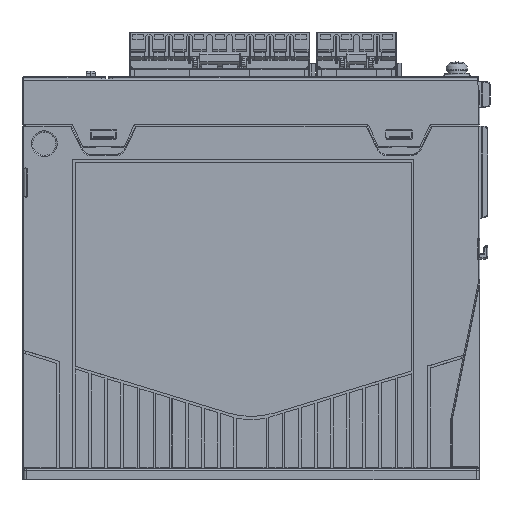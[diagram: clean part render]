
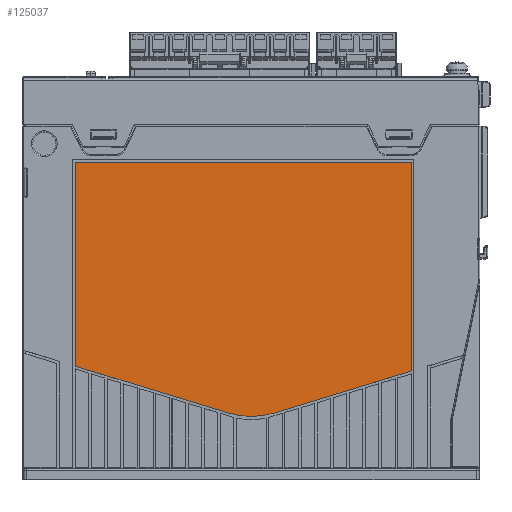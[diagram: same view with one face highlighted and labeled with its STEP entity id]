
A CAD part, left-side view. The second image highlights one B-rep face of the part: STEP entity #125037.
In plain terms, the highlighted planar face has unit normal (-1, 0, 0).
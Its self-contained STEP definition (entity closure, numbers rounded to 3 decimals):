
#32143=CARTESIAN_POINT('',(0.2,25.505,
-13.805));
#32178=CARTESIAN_POINT('',(0.2,25.505,
-91.337));
#32179=CARTESIAN_POINT('',(0.2,25.505,
-91.382));
#32180=CARTESIAN_POINT('',(0.2,25.523,
-91.461));
#32181=CARTESIAN_POINT('',(0.2,25.6,
-91.566));
#32182=CARTESIAN_POINT('',(0.2,25.671,
-91.607));
#32183=CARTESIAN_POINT('',(0.2,25.714,
-91.62));
#32185=DIRECTION('',(0.,0.956,-0.292));
#32186=VECTOR('',#32185,53.131);
#32187=CARTESIAN_POINT('',(0.2,25.714,
-91.62));
#32188=LINE('',#32187,#32186);
#32189=CARTESIAN_POINT('',(0.2,85.001,
-79.428));
#32190=DIRECTION('',(1.,0.,0.));
#32191=DIRECTION('',(0.,-0.292,-0.956));
#32192=AXIS2_PLACEMENT_3D('',#32189,#32190,#32191);
#32194=DIRECTION('',(0.,0.956,0.292));
#32195=VECTOR('',#32194,59.404);
#32196=CARTESIAN_POINT('',(0.2,93.477,
-107.156));
#32197=LINE('',#32196,#32195);
#32198=CARTESIAN_POINT('',(0.2,150.2,-89.508));
#32199=DIRECTION('',(1.,0.,0.));
#32200=DIRECTION('',(0.,0.292,-0.956));
#32201=AXIS2_PLACEMENT_3D('',#32198,#32199,#32200);
#32203=DIRECTION('',(0.,0.,1.));
#32204=VECTOR('',#32203,75.703);
#32205=CARTESIAN_POINT('',(0.2,150.495,
-89.508));
#32206=LINE('',#32205,#32204);
#32207=DIRECTION('',(0.,-1.,0.));
#32208=VECTOR('',#32207,124.99);
#32209=CARTESIAN_POINT('',(0.2,150.495,
-13.805));
#32210=LINE('',#32209,#32208);
#32211=DIRECTION('',(0.,0.,-1.));
#32212=VECTOR('',#32211,77.532);
#32213=CARTESIAN_POINT('',(0.2,25.505,
-13.805));
#32214=LINE('',#32213,#32212);
#53405=VERTEX_POINT('',#32143);
#53406=CARTESIAN_POINT('',(0.2,150.495,
-13.805));
#53407=VERTEX_POINT('',#53406);
#53408=CARTESIAN_POINT('',(0.2,25.505,
-91.337));
#53409=VERTEX_POINT('',#53408);
#53410=CARTESIAN_POINT('',(0.2,25.714,
-91.62));
#53411=VERTEX_POINT('',#53410);
#53412=CARTESIAN_POINT('',(0.2,76.523,
-107.156));
#53413=VERTEX_POINT('',#53412);
#53414=CARTESIAN_POINT('',(0.2,93.477,
-107.156));
#53415=VERTEX_POINT('',#53414);
#53416=CARTESIAN_POINT('',(0.2,150.286,
-89.79));
#53417=VERTEX_POINT('',#53416);
#53418=CARTESIAN_POINT('',(0.2,150.495,
-89.508));
#53419=VERTEX_POINT('',#53418);
#125022=CARTESIAN_POINT('',(0.2,0.,-127.5));
#125023=DIRECTION('',(-1.,0.,0.));
#125024=DIRECTION('',(0.,0.,1.));
#125025=AXIS2_PLACEMENT_3D('',#125022,#125023,#125024);
#125026=PLANE('',#125025);
#125027=ORIENTED_EDGE('',*,*,#124905,.T.);
#125028=ORIENTED_EDGE('',*,*,#124926,.T.);
#125029=ORIENTED_EDGE('',*,*,#124947,.T.);
#125030=ORIENTED_EDGE('',*,*,#124968,.T.);
#125031=ORIENTED_EDGE('',*,*,#124989,.T.);
#125032=ORIENTED_EDGE('',*,*,#125009,.T.);
#125033=ORIENTED_EDGE('',*,*,#124862,.T.);
#125034=ORIENTED_EDGE('',*,*,#124884,.T.);
#125035=EDGE_LOOP('',(#125027,#125028,#125029,#125030,#125031,#125032,#125033,
#125034));
#125036=FACE_OUTER_BOUND('',#125035,.F.);
#32184=B_SPLINE_CURVE_WITH_KNOTS('',3,(#32178,#32179,#32180,#32181,#32182,
#32183),.UNSPECIFIED.,.F.,.F.,(4,1,1,4),(0.,0.333,
0.667,1.),.UNSPECIFIED.);
#32193=CIRCLE('',#32192,28.995);
#32202=CIRCLE('',#32201,0.295);
#124862=EDGE_CURVE('',#53407,#53405,#32210,.T.);
#124884=EDGE_CURVE('',#53405,#53409,#32214,.T.);
#124905=EDGE_CURVE('',#53409,#53411,#32184,.T.);
#124926=EDGE_CURVE('',#53411,#53413,#32188,.T.);
#124947=EDGE_CURVE('',#53413,#53415,#32193,.T.);
#124968=EDGE_CURVE('',#53415,#53417,#32197,.T.);
#124989=EDGE_CURVE('',#53417,#53419,#32202,.T.);
#125009=EDGE_CURVE('',#53419,#53407,#32206,.T.);
#125037=ADVANCED_FACE('',(#125036),#125026,.T.);
